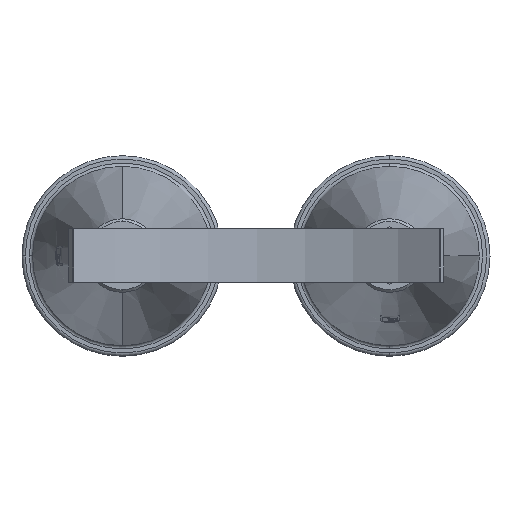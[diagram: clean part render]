
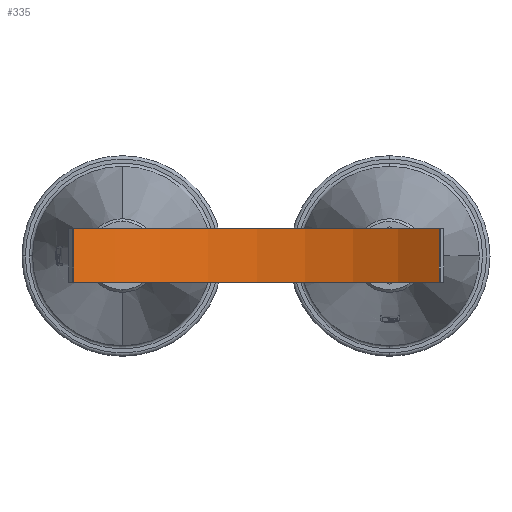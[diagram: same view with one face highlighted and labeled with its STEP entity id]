
A CAD part, top view. The second image highlights one B-rep face of the part: STEP entity #335.
In plain terms, the highlighted cylindrical face has radius 453 mm (diameter 906 mm), a partial arc.
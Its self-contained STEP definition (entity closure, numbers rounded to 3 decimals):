
#335=ADVANCED_FACE('',(#829),#830,.F.);
#829=FACE_OUTER_BOUND('',#1564,.T.);
#830=CYLINDRICAL_SURFACE('',#1565,453.0);
#1564=EDGE_LOOP('',(#2254,#2255,#2256,#2257));
#1565=AXIS2_PLACEMENT_3D('',#2258,#2259,#2260);
#2254=ORIENTED_EDGE('',*,*,#4121,.T.);
#2255=ORIENTED_EDGE('',*,*,#4111,.F.);
#2256=ORIENTED_EDGE('',*,*,#4122,.T.);
#2257=ORIENTED_EDGE('',*,*,#4118,.T.);
#2258=CARTESIAN_POINT('',(355.602,525.389,624.931));
#2259=DIRECTION('',(0.,-1.0,0.));
#2260=DIRECTION('',(1.0,0.,0.));
#4111=EDGE_CURVE('',#4843,#4838,#4845,.T.);
#4118=EDGE_CURVE('',#4855,#4853,#4856,.T.);
#4121=EDGE_CURVE('',#4853,#4838,#4859,.T.);
#4122=EDGE_CURVE('',#4843,#4855,#4860,.T.);
#4838=VERTEX_POINT('',#5894);
#4843=VERTEX_POINT('',#5901);
#4845=LINE('',#5904,#5905);
#4853=VERTEX_POINT('',#5914);
#4855=VERTEX_POINT('',#5917);
#4856=LINE('',#5918,#5919);
#4859=CIRCLE('',#5923,453.0);
#4860=CIRCLE('',#5924,453.0);
#5894=CARTESIAN_POINT('',(629.387,445.389,264.028));
#5901=CARTESIAN_POINT('',(629.387,525.389,264.028));
#5904=CARTESIAN_POINT('',(629.387,525.389,264.028));
#5905=VECTOR('',#9104,1.);
#5914=CARTESIAN_POINT('',(83.084,445.389,263.071));
#5917=CARTESIAN_POINT('',(83.084,525.389,263.071));
#5918=CARTESIAN_POINT('',(83.084,525.389,263.071));
#5919=VECTOR('',#9113,1.);
#5923=AXIS2_PLACEMENT_3D('',#9115,#9116,#9117);
#5924=AXIS2_PLACEMENT_3D('',#9118,#9119,#9120);
#9104=DIRECTION('',(0.,-1.0,0.));
#9113=DIRECTION('',(0.,-1.0,0.));
#9115=CARTESIAN_POINT('',(355.602,445.389,624.931));
#9116=DIRECTION('',(0.,-1.0,0.));
#9117=DIRECTION('',(1.0,0.,0.));
#9118=CARTESIAN_POINT('',(355.602,525.389,624.931));
#9119=DIRECTION('',(0.,1.0,0.));
#9120=DIRECTION('',(1.0,0.,0.));
